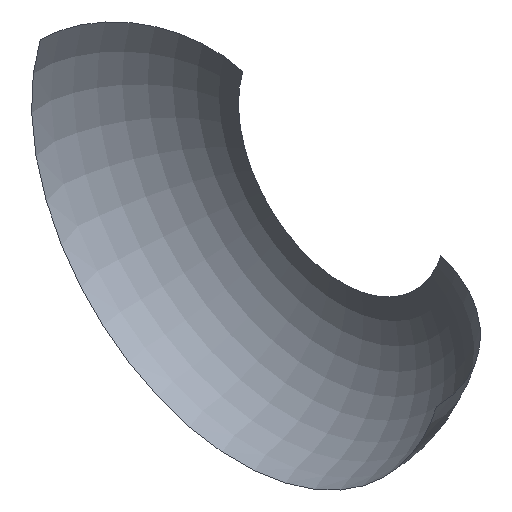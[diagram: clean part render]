
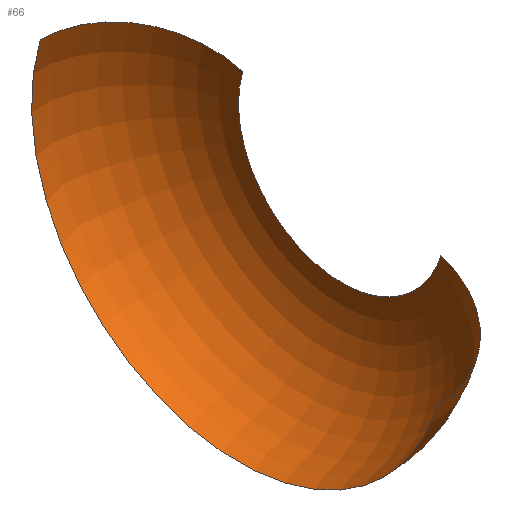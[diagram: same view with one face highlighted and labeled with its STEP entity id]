
A CAD part, isometric view. The second image highlights one B-rep face of the part: STEP entity #66.
In plain terms, the highlighted toroidal (fillet/blend) face has major radius 3 mm and minor radius 3 mm.
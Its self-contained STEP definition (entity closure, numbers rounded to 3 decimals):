
#1=CARTESIAN_POINT('',(109.865,7.,54.178));
#2=DIRECTION('',(0.,-1.,0.));
#3=DIRECTION('',(0.,0.,-1.));
#4=AXIS2_PLACEMENT_3D('',#1,#2,#3);
#5=TOROIDAL_SURFACE('',#4,3.,3.);
#10=CARTESIAN_POINT('',(108.126,7.,48.436));
#11=VERTEX_POINT('',#10);
#12=CARTESIAN_POINT('',(108.996,10.,51.307));
#13=VERTEX_POINT('',#12);
#14=CARTESIAN_POINT('',(110.735,10.,57.05));
#15=VERTEX_POINT('',#14);
#16=CARTESIAN_POINT('',(111.605,7.,59.921));
#17=VERTEX_POINT('',#16);
#20=CARTESIAN_POINT('',(108.996,7.,51.307));
#21=DIRECTION('',(0.957,0.,-0.29));
#22=DIRECTION('',(-0.29,0.,-0.957));
#23=AXIS2_PLACEMENT_3D('',#20,#21,#22);
#24=CIRCLE('',#23,3.);
#25=EDGE_CURVE('',#11,#13,#24,.T.);
#30=CARTESIAN_POINT('',(108.996,10.,51.307));
#31=CARTESIAN_POINT('',(114.738,10.,49.568));
#32=CARTESIAN_POINT('',(116.477,10.,55.31));
#33=CARTESIAN_POINT('',(110.735,10.,57.05));
#34=(B_SPLINE_CURVE(3,(#30,#31,#32,#33),.UNSPECIFIED.,.F.,.U.)
  B_SPLINE_CURVE_WITH_KNOTS((4,4),(0.,1.),.UNSPECIFIED.)
  BOUNDED_CURVE()CURVE()GEOMETRIC_REPRESENTATION_ITEM()
  RATIONAL_B_SPLINE_CURVE((1.,0.333,0.333,1.))
  REPRESENTATION_ITEM(''));
#35=EDGE_CURVE('',#15,#13,#34,.F.);
#40=CARTESIAN_POINT('',(110.735,7.,57.05));
#41=DIRECTION('',(-0.957,0.,0.29));
#42=DIRECTION('',(0.29,0.,0.957));
#43=AXIS2_PLACEMENT_3D('',#40,#41,#42);
#44=CIRCLE('',#43,3.);
#45=EDGE_CURVE('',#17,#15,#44,.T.);
#50=CARTESIAN_POINT('',(108.126,7.,48.436));
#51=CARTESIAN_POINT('',(119.611,7.,44.957));
#52=CARTESIAN_POINT('',(123.09,7.,56.442));
#53=CARTESIAN_POINT('',(111.605,7.,59.921));
#54=(B_SPLINE_CURVE(3,(#50,#51,#52,#53),.UNSPECIFIED.,.F.,.U.)
  B_SPLINE_CURVE_WITH_KNOTS((4,4),(0.,1.),.UNSPECIFIED.)
  BOUNDED_CURVE()CURVE()GEOMETRIC_REPRESENTATION_ITEM()
  RATIONAL_B_SPLINE_CURVE((1.,0.333,0.333,1.))
  REPRESENTATION_ITEM(''));
#55=EDGE_CURVE('',#11,#17,#54,.T.);
#60=ORIENTED_EDGE('',*,*,#25,.T.);
#61=ORIENTED_EDGE('',*,*,#35,.F.);
#62=ORIENTED_EDGE('',*,*,#45,.F.);
#63=ORIENTED_EDGE('',*,*,#55,.F.);
#64=EDGE_LOOP('',(#60,#61,#62,#63));
#65=FACE_OUTER_BOUND('',#64,.T.);
#66=ADVANCED_FACE('',(#65),#5,.T.);
